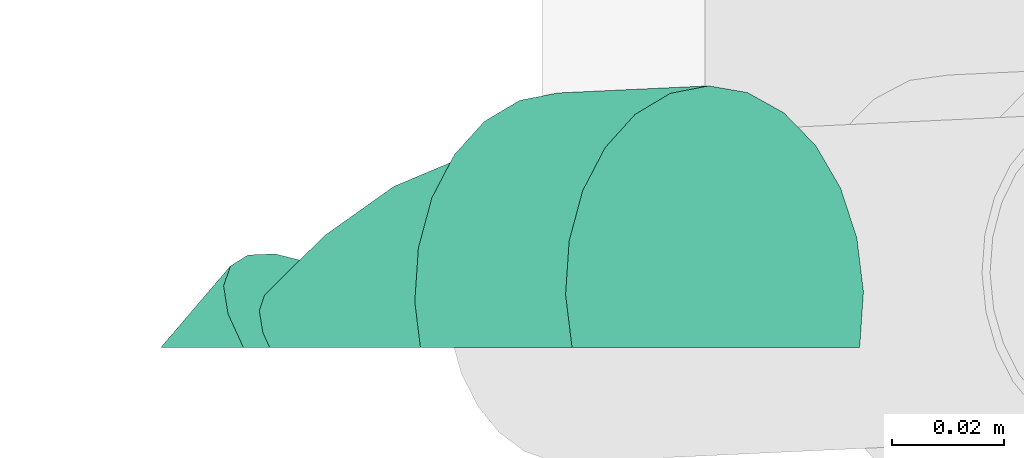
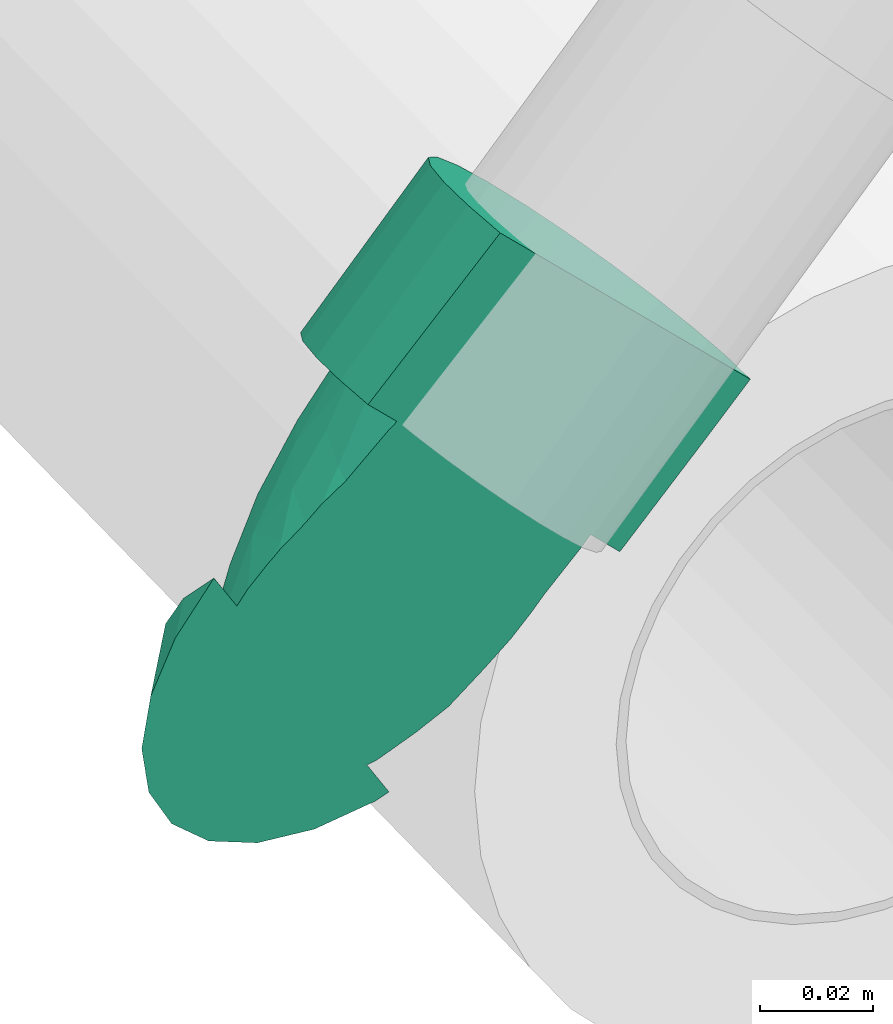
# One storey, part 64 of 78: 1 flow fitting.
"""IFC2X3 building model written with IfcOpenShell, lengths in millimetres."""

from ifc_helpers import new_model, entity, si_unit, converted_unit, derived_unit, direction, frame, place, context, subcontext, project, spatial, faceted_brep, type_object, element, save


model = new_model("IFC2X3")

# Units and contexts
model_context = context("Model", 3, precision=0.01, world=frame((0.0, 4.29681676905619e-09, 0.0)), true_north=direction((4.01073788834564e-13, 1.0)))
plan_context = context("Plan", 3, precision=0.01, world=frame((0.0, 4.29681676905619e-09, 0.0)), true_north=direction((4.01073788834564e-13, 1.0)))
body_context = subcontext(model_context, "Body", "Model", "MODEL_VIEW")
ifc_project = project(units=[converted_unit("PLANEANGLEUNIT", "DEGREE", entity("IfcPositiveLengthMeasure", 0.0174532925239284), si_unit("PLANEANGLEUNIT", "RADIAN"), dimensions=[0, 0, 0, 0, 0, 0, 0]), si_unit("AREAUNIT", "SQUARE_METRE"), si_unit("LENGTHUNIT", "METRE", prefix="MILLI"), si_unit("MASSUNIT", "GRAM", prefix="KILO"), si_unit("POWERUNIT", "WATT"), si_unit("PRESSUREUNIT", "PASCAL"), si_unit("FORCEUNIT", "NEWTON", prefix="KILO"), si_unit("ELECTRICVOLTAGEUNIT", "VOLT"), si_unit("ELECTRICCURRENTUNIT", "AMPERE"), si_unit("THERMODYNAMICTEMPERATUREUNIT", "DEGREE_CELSIUS"), si_unit("TIMEUNIT", "SECOND"), si_unit("VOLUMEUNIT", "CUBIC_METRE"), derived_unit("LINEARVELOCITYUNIT", [(si_unit("LENGTHUNIT", "METRE"), 1), (si_unit("TIMEUNIT", "SECOND"), -1)]), derived_unit("VOLUMETRICFLOWRATEUNIT", [(si_unit("VOLUMEUNIT", "CUBIC_METRE"), 1), (si_unit("TIMEUNIT", "SECOND"), -1)]), derived_unit("THERMALTRANSMITTANCEUNIT", [(si_unit("POWERUNIT", "WATT"), 1), (si_unit("THERMODYNAMICTEMPERATUREUNIT", "KELVIN"), -1), (si_unit("AREAUNIT", "SQUARE_METRE"), -1)]), derived_unit("SOUNDPRESSUREUNIT", [(si_unit("PRESSUREUNIT", "PASCAL"), 1)])], contexts=[model_context, plan_context])

# Site, building, storey
site_placement = place(None, frame((0.0, -4.29681676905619e-09, 0.0), z_axis=(0.0, 0.0, 1.0), x_axis=(1.0, 0.0, 0.0)))
site = spatial("IfcSite", under=ifc_project, at=site_placement, Name="ENGM", CompositionType="ELEMENT")
building_placement = place(site_placement, frame((0.0, 4.29681676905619e-09, 0.0), z_axis=(0.0, 0.0, 1.0), x_axis=(1.0, 0.0, 0.0)))
building = spatial("IfcBuilding", under=site, at=building_placement, Name="TH", CompositionType="ELEMENT")
storey_placement = place(building_placement, frame((0.0, 0.0, 205200.0), z_axis=(0.0, 0.0, 1.0), x_axis=(1.0, 0.0, 0.0)))
storey = spatial("IfcBuildingStorey", under=building, at=storey_placement, Name="Nivå D + 1,2 m", CompositionType="ELEMENT", Elevation=205200.0)

# Flow fitting
pipe_fitting_type = type_object("IfcPipeFittingType", Name="magi_sewer_bend_NOR", PredefinedType="BEND")
flow_fitting_placement = place(storey_placement, frame((903805.93133, 476042.37816, 4139.68856000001), z_axis=(0.701001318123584, -0.251538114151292, -0.667327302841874), x_axis=(0.603955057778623, 0.70700885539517, 0.367935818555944)))
element("IfcFlowFitting", 1, at=flow_fitting_placement, inside=storey, type_object=pipe_fitting_type, Name="magi_sewer_bend_NOR", context=body_context, shape_type="Brep", body=[
    faceted_brep([(-24.02439, -24.3923316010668, 27.1852179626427), (-24.02439, -24.2973727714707, 26.9356974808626), (-24.02439, -26.16295, 26.16295), (-24.02439, -21.7702065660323, 20.2951382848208), (-24.02439, -35.73926, 9.57631), (-24.02439, -20.9421950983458, 18.1193972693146), (-24.02439, -17.6909927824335, 9.57631), (-24.02439, -15.6415890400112, 4.19115296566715), (-24.02439, -6.13242644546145, -20.7957897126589), (-24.02439, -26.16295, -26.16295), (-24.02439, -4.08987163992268, -26.16295), (-24.02439, -1.29039375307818, -33.5190544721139), (-24.02439, -9.57631, -35.73926), (-24.0243899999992, 0.0296580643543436, -36.9877152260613), (-24.02439, 0.0, -37.0), (-24.02439, 0.0311561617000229, -36.9916517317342), (-24.02439, 0.0326951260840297, -36.995695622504), (-24.02439, -18.5, -32.04294), (-24.02439, -32.04294, -18.5), (-24.02439, -35.73926, -9.57631), (-24.02439, -37.0, 0.0), (-24.02439, -32.04294, 18.5), (-24.02439, -24.4914114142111, 27.4455670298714), (-25.6537030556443, -25.840331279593, 26.4105041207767), (-26.0433829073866, -26.16295, 26.16295), (-32.4717333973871, -30.7594698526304, 20.1726503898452), (-34.2666992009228, -32.04294, 18.5), (-38.4291670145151, -34.3634288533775, 12.8978543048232), (-40.8971180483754, -35.73926, 9.57631), (-43.2094892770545, -36.3750020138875, 4.74735033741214), (-45.4827814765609, -37.0, 0.0), (-46.7938899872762, -36.2582320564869, -5.63430983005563), (-47.711196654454, -35.73926, -9.57631), (-47.5406184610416, -33.4931745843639, -14.9988302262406), (-47.4304808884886, -32.04294, -18.5), (-45.8666959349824, -28.7242697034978, -22.8249741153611), (-44.6597808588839, -26.16295, -26.16295), (-42.2687478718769, -22.5504021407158, -28.9349562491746), (-39.5879127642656, -18.5, -32.04294), (-37.1961079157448, -15.4627822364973, -33.3009990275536), (-32.5605190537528, -9.57631, -35.73926), (-31.0226945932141, -7.8445804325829, -35.9672455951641), (-24.0564869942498, 1.98951966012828e-13, -36.9999999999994), (43.9950201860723, 44.7106598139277, 36.790393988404), (43.495036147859, 45.210643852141, 34.0712744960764), (44.35284, 44.35284, 37.0), (31.5621658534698, 57.1435141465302, -30.8245976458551), (37.58137, 51.12431, -35.73926), (51.12431, 37.58137, 35.73926), (62.85284, 25.85284, 26.16295), (70.51579, 18.18989, 0.0), (62.85284, 25.85284, -26.16295), (69.62431, 19.08137, -9.57631), (67.01062, 21.69506, -18.5), (51.12431, 37.58137, -35.73926), (44.35284, 44.35284, -37.0), (57.43432, 31.27136, -32.04294), (69.62431, 19.08137, 9.57631), (67.01062, 21.69506, 18.5), (57.43432, 31.27136, 32.04294), (31.3316468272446, 57.3740331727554, -32.0782552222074), (44.0222439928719, 44.6834360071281, 36.9384482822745), (39.64559, -5.66997, 18.5), (42.25928, -8.28366, 9.57631), (43.15076, -9.17514, 0.0), (35.48781, -1.51219, 26.16295), (23.75928, 10.21634, 35.73926), (13.9333482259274, 20.0422717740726, 17.1151633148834), (16.8784525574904, 17.0971674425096, 33.1318558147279), (8.36226982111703, 25.613350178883, -13.1826596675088), (5.21298089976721, 28.7626391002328, -30.3097922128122), (10.21634, 23.75928, -35.73926), (4.99807133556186, 28.9775486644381, -31.4785590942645), (4.79822219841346, 29.1773892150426, -32.5653985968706), (23.75928, 10.21634, -35.73926), (16.98781, 16.98781, -37.0), (30.06928, 3.90633, -32.04294), (39.64559, -5.66997, -18.5), (42.25928, -8.28366, -9.57631), (35.48781, -1.51219, -26.16295), (17.3578946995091, 16.6177253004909, 35.73926), (17.5697918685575, 16.4058281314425, 36.8916442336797), (30.06928, 3.90633, 32.04294), (19.5806585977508, 18.5520003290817, 36.9042400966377), (34.8682497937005, 34.8682497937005, 37.0), (31.0396609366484, 57.0637444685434, -32.0836159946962), (-24.02439, -3.85782892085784, -26.7726817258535), (-24.02439, -8.52838535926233, -14.5), (-24.02439, -25.11474, -14.5), (-24.02439, -3.57349805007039, -27.5198094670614), (-24.02439, -20.5061, -20.5061), (-24.02439, -3.16896128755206, -28.5827986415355), (-24.02439, -7.50575, -28.01185), (-24.02439, -14.5, -25.11474), (-24.02439, -9.31975186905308, -12.4205498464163), (-24.02439, -13.257863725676, -2.07249088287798), (-24.02439, -29.0, 0.0), (-24.02439, -14.0465817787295, 0.0), (-24.02439, -21.2067539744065, 18.8145707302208), (-24.02439, -21.3163848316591, 19.1026444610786), (-24.02439, -28.01185, 7.50575), (-24.02439, -21.404779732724, 19.3349171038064), (-24.02439, -25.11474, 14.5), (-24.02439, -28.01185, -7.50575), (6.73476, 27.24085, -25.11474), (11.68044, 22.29518, -28.01185), (16.98781, 16.98781, -29.0), (6.57537363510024, 27.4002463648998, -22.9005383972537), (6.26246793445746, 27.7131431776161, -24.6022253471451), (7.17616267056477, 26.7994573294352, -19.6331997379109), (34.74661, -0.77099, -14.5), (22.29518, 11.68044, -28.01185), (31.48781, 2.48781, -20.5061), (27.24085, 6.73476, -25.11474), (8.60686553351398, 25.368754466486, -11.8524472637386), (31.48781, 2.48781, 20.5061), (12.5130360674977, 21.462578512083, 9.39093402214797), (15.8132687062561, 18.1623507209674, 27.3389480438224), (16.98781, 16.98781, 29.0), (22.29518, 11.68044, 28.01185), (27.24085, 6.73476, 25.11474), (16.0878896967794, 17.8877303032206, 28.832448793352), (36.79517, -2.81956, 7.50575), (34.74661, -0.77099, 14.5), (37.4939, -3.51829, 0.0), (36.79517, -2.81956, -7.50575), (-9.36445, -22.17951, 16.98062), (-6.4158, -16.39013, 22.37753), (7.38612, -17.83168, 16.16082), (4.86759, -11.75141, 23.12589), (16.12623, -7.05292, 22.37753), (2.97765, -7.18868, 26.13912), (15.6447, 0.60587, 26.50451), (8.09453, 4.14577, 28.6158), (6.90242721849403, 8.15073793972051, 28.6000836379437), (14.6769550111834, 16.3463126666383, 28.9170118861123), (-11.3809256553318, -10.6078742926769, 26.501732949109), (-4.92337042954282, -4.20258825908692, 27.8212786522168), (-11.4540873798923, -10.6758008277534, 26.4745827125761), (-16.6594013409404, -15.2905678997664, 23.9698714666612), (-22.3343455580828, -20.1110557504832, 20.6857168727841), (0.0480238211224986, 0.812800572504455, 28.6158), (4.07200940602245, 5.07732160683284, 28.720432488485), (-3.51078060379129, 17.7212357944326, -25.8168731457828), (-7.70449985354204, 13.7182900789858, -27.0859169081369), (-0.65406, 16.41224, -27.11091), (-10.7323062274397, 10.6233552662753, -27.4638329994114), (-2.75829, 6.65911, -28.8981), (7.43294, 13.11605, -28.82401), (8.09453, 4.14577, -28.6158), (15.6447, 0.60587, -26.50451), (2.97765, -7.18868, -26.13912), (16.12623, -7.05292, -22.37753), (22.30495, -9.06161, -16.98062), (7.38612, -17.83168, -16.16082), (4.86759, -11.75141, -23.12589), (-6.4158, -16.39013, -22.37753), (-11.49089, -10.63406, -26.50451), (-8.6552, -2.79219, -28.6158), (-21.6003996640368, -0.44037724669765, -28.9394049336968), (-17.8699637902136, 3.47991571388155, -28.7553472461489), (-13.41369, 5.99964, -28.5782), (-15.1829567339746, 6.25077426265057, -28.4837647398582), (-13.2338703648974, 8.1549282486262, -28.008873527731), (-9.36445, -22.17951, -16.98062), (-5.1998, -25.08939, -10.07095), (5.50729, -21.33466, -11.42912), (9.00376, -21.73701, -6.30316), (-6.18986, -26.71717, -4.95203), (-9.68946, -27.11277, 0.0), (-6.18986, -26.71717, 4.95203), (-5.1998, -25.08939, 10.07096), (-22.9702459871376, -20.6264289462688, 20.2525953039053), (9.00376, -21.73701, 6.30317), (-1.50713, -26.03555, 0.0), (8.98424, -21.68988, 0.0), (19.47561, -17.34421, 0.0), (23.26879, -14.515, -4.95203), (21.41769, -14.06407, -10.07095), (26.0231, -12.32014, 0.0), (23.26879, -14.515, 4.95203), (21.41769, -14.06407, 10.07096), (11.19164, -18.98012, 11.42912), (22.30495, -9.06161, 16.98062), (4.82847390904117, 26.3045623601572, -24.9315274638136)], [[[0, 1, 2]], [[1, 3, 4, 2]], [[3, 5, 4]], [[5, 6, 4]], [[6, 7, 4]], [[7, 8, 9, 4]], [[8, 10, 9]], [[10, 11, 12, 9]], [[11, 13, 14, 12]], [[13, 15, 14]], [[15, 16, 14]], [[12, 17, 9]], [[9, 18, 4]], [[4, 18, 19]], [[20, 4, 19]], [[4, 21, 2]], [[22, 0, 2]], [[23, 22, 2]], [[24, 23, 2]], [[25, 24, 2, 21]], [[26, 25, 21]], [[27, 26, 21, 4]], [[28, 27, 4]], [[29, 28, 4, 20]], [[30, 29, 20]], [[31, 30, 20]], [[32, 31, 20, 19]], [[33, 32, 19]], [[34, 33, 19, 18]], [[35, 34, 18]], [[36, 35, 18, 9]], [[37, 36, 9]], [[38, 37, 9, 17]], [[39, 38, 17]], [[40, 39, 17, 12]], [[41, 40, 12]], [[42, 41, 12, 14]], [[16, 42, 14]], [[43, 44, 45]], [[44, 46, 47, 45]], [[47, 48, 45]], [[48, 47, 49]], [[49, 47, 50]], [[47, 51, 50]], [[51, 52, 50]], [[53, 52, 51]], [[54, 51, 47]], [[54, 47, 55]], [[56, 51, 54]], [[49, 50, 57]], [[58, 49, 57]], [[49, 59, 48]], [[46, 60, 47]], [[61, 43, 45]], [[62, 63, 64]], [[65, 62, 64]], [[64, 66, 65]], [[67, 68, 66, 64]], [[69, 67, 64]], [[70, 69, 64, 71]], [[72, 70, 71]], [[73, 72, 71]], [[71, 64, 74]], [[75, 71, 74]], [[76, 74, 64]], [[64, 77, 76]], [[64, 78, 77]], [[79, 76, 77]], [[68, 80, 66]], [[80, 81, 66]], [[66, 82, 65]], [[75, 47, 71]], [[75, 55, 47]], [[54, 55, 75]], [[75, 74, 54]], [[74, 56, 54]], [[74, 76, 56]], [[51, 56, 76]], [[51, 76, 79]], [[79, 53, 51]], [[77, 53, 79]], [[52, 53, 77]], [[77, 78, 52]], [[78, 50, 52]], [[64, 50, 78]], [[50, 64, 57]], [[63, 57, 64]], [[63, 62, 57]], [[62, 58, 57]], [[62, 65, 58]], [[58, 65, 49]], [[49, 65, 82]], [[82, 59, 49]], [[66, 59, 82]], [[48, 59, 66]], [[81, 83, 48, 66]], [[83, 84, 45, 48]], [[84, 61, 45]], [[85, 73, 71]], [[60, 85, 71, 47]], [[86, 87, 88]], [[89, 86, 88, 90]], [[91, 89, 90, 92]], [[92, 90, 93]], [[87, 94, 88]], [[94, 95, 96, 88]], [[95, 97, 96]], [[97, 98, 96]], [[98, 99, 100, 96]], [[99, 101, 102, 100]], [[88, 96, 103]], [[104, 105, 106]], [[107, 108, 104, 106]], [[109, 107, 106, 110]], [[106, 111, 110]], [[110, 111, 112]], [[113, 112, 111]], [[114, 109, 110, 115]], [[116, 114, 115]], [[117, 116, 115, 118]], [[118, 115, 119]], [[120, 119, 115]], [[121, 117, 118]], [[122, 115, 110]], [[123, 115, 122]], [[124, 122, 110]], [[125, 124, 110]], [[126, 127, 128]], [[127, 129, 128]], [[130, 128, 129]], [[129, 131, 130]], [[131, 132, 130]], [[133, 132, 131]], [[119, 132, 133]], [[118, 119, 133]], [[134, 135, 118, 133]], [[135, 121, 118]], [[136, 137, 131]], [[138, 136, 131, 127]], [[139, 138, 127]], [[140, 139, 127]], [[141, 142, 133]], [[143, 144, 145]], [[144, 146, 147, 145]], [[147, 148, 145]], [[105, 145, 148]], [[106, 105, 148]], [[106, 148, 149]], [[149, 111, 106]], [[111, 149, 150]], [[151, 150, 149]], [[152, 150, 151]], [[113, 150, 152]], [[152, 112, 113]], [[152, 153, 112]], [[152, 154, 153]], [[152, 155, 154]], [[156, 154, 155]], [[155, 151, 156]], [[151, 157, 156]], [[93, 156, 157]], [[92, 93, 157]], [[92, 157, 158]], [[159, 91, 92, 158]], [[160, 159, 158, 161]], [[162, 160, 161]], [[163, 162, 161]], [[147, 161, 158]], [[158, 149, 147]], [[156, 93, 90]], [[156, 90, 164]], [[88, 164, 90]], [[164, 88, 165]], [[165, 166, 164]], [[165, 167, 166]], [[167, 165, 168]], [[165, 103, 168]], [[169, 168, 103]], [[103, 96, 169]], [[169, 96, 100]], [[170, 169, 100]], [[171, 170, 100]], [[171, 100, 102]], [[126, 171, 102]], [[101, 172, 126, 102]], [[173, 170, 171]], [[170, 173, 174]], [[175, 174, 173]], [[175, 167, 174]], [[175, 176, 167]], [[176, 177, 167]], [[178, 167, 177]], [[178, 177, 125]], [[177, 179, 125]], [[179, 124, 125]], [[122, 124, 179]], [[179, 180, 122]], [[176, 180, 179]], [[176, 173, 180]], [[181, 180, 173]], [[173, 182, 181]], [[181, 182, 183]], [[183, 123, 181]], [[123, 122, 181]], [[183, 115, 123]], [[183, 130, 115]], [[130, 120, 115]], [[183, 182, 128]], [[128, 182, 171]], [[181, 122, 180]], [[178, 125, 110]], [[153, 178, 110]], [[176, 179, 177]], [[175, 173, 176]], [[173, 171, 182]], [[170, 174, 169]], [[174, 168, 169]], [[167, 168, 174]], [[167, 178, 166]], [[154, 166, 178]], [[164, 166, 154]], [[165, 88, 103]], [[158, 157, 151]], [[156, 164, 154]], [[178, 153, 154]], [[153, 110, 112]], [[151, 155, 152]], [[149, 158, 151]], [[113, 111, 150]], [[145, 105, 104]], [[149, 148, 147]], [[146, 163, 161, 147]], [[184, 143, 145, 104]], [[108, 184, 104]], [[142, 134, 133]], [[132, 119, 120]], [[137, 141, 133, 131]], [[132, 120, 130]], [[130, 183, 128]], [[131, 129, 127]], [[171, 126, 128]], [[172, 140, 127, 126]], [[22, 23, 24, 25, 26, 27, 28, 29, 30, 31, 32, 33, 34, 35, 36, 37, 38, 39, 40, 41, 14, 11, 10, 8, 7, 6, 5, 3, 1, 0]], [[61, 84, 83, 81, 80, 68, 67, 69, 70, 72, 73, 85, 60, 46, 44, 43]], [[89, 91, 159, 160, 162, 163, 146, 144, 143, 184, 108, 107, 109, 114, 116, 117, 121, 135, 134, 142, 141, 137, 136, 138, 139, 140, 172, 101, 99, 98, 97, 95, 94, 87, 86]]], orient=[[False], [False], [False], [False], [False], [False], [False], [False], [False], [False], [False], [False], [False], [False], [False], [False], [False], [False], [False], [False], [False], [False], [False], [False], [False], [False], [False], [False], [False], [False], [False], [False], [False], [False], [False], [False], [False], [False], [False], [False], [False], [False], [False], [False], [False], [False], [False], [False], [False], [False], [False], [False], [False], [False], [False], [False], [False], [False], [False], [False], [False], [False], [False], [False], [False], [False], [False], [False], [False], [False], [False], [False], [False], [False], [False], [False], [False], [False], [False], [False], [False], [False], [False], [False], [False], [False], [False], [False], [False], [False], [False], [False], [False], [False], [False], [False], [False], [False], [False], [False], [False], [False], [False], [False], [False], [False], [False], [False], [False], [False], [False], [False], [False], [False], [False], [False], [False], [False], [False], [False], [False], [False], [False], [False], [False], [False], [False], [False], [False], [False], [False], [False], [False], [False], [False], [False], [False], [False], [False], [False], [False], [False], [False], [False], [False], [False], [False], [False], [False], [False], [False], [False], [False], [False], [False], [False], [False], [False], [False], [False], [False], [False], [False], [False], [False], [False], [False], [False], [False], [False], [False], [False], [False], [False], [False], [False], [False], [False], [False], [False], [False], [False], [False], [False], [False], [False], [False], [False], [False], [False], [False], [False], [False], [False], [False], [False], [False], [False], [False], [False], [False], [False], [False], [False], [False], [False], [False], [False], [False], [False], [False], [False], [False], [False], [False], [False], [False], [False], [False], [False], [False], [False], [False], [False], [False], [False], [False], [False], [False], [False], [False], [False], [False], [False], [False], [False], [False], [False], [False], [False], [False], [False], [False], [False], [False]]),
])

save(model, "model.ifc")
